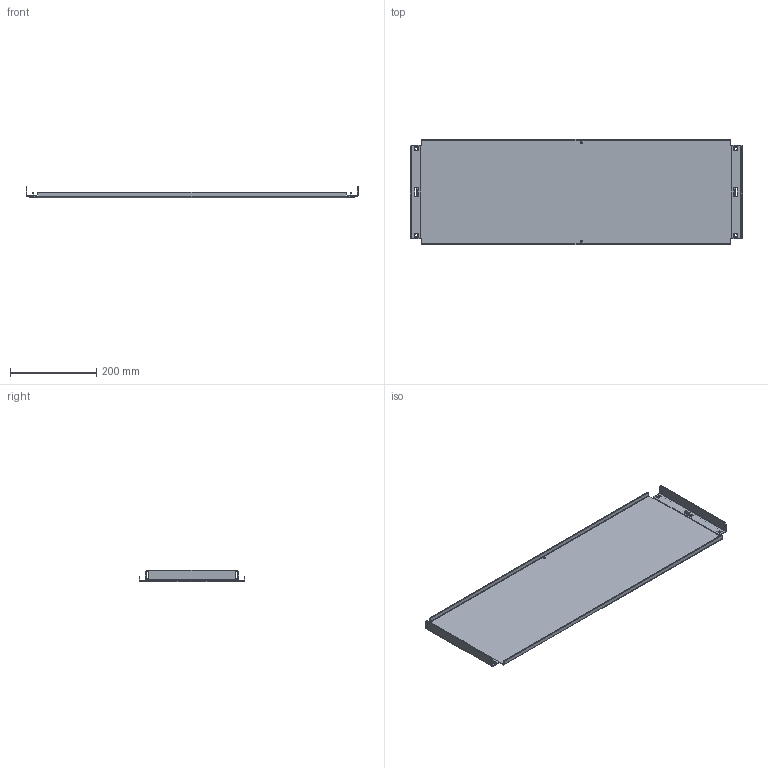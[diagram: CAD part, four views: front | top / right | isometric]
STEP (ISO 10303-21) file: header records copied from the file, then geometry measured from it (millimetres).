
FILE_DESCRIPTION(('STEP AP203'), '1');
FILE_NAME('Ïàíåëü ìîíòàæíàÿ ãëóõàÿ Â250õØ800 ìì OptiBox M 419105 ÊÝÀÇ', '', ('UNSPECIFIED'), ('UNSPECIFIED'), 'C3D Converter', 'C3D Toolkit', '');
FILE_SCHEMA(('CONFIG_CONTROL_DESIGN'));
Length unit declared in the file: millimetre
Bounding box: 769.2 x 245 x 26 mm (x, y, z)
Volume: 428715 mm3; surface area: 436146.6 mm2
Topology: 3 solids, 3 shells, 152 faces, 398 edges, 252 vertices
Faces by surface type: plane 118, cylinder 34
Full cylindrical faces by diameter (mm): 4.6 x2, 7.3 x4
Entity records: 5892 total; most frequent: CARTESIAN_POINT 797, ORIENTED_EDGE 784, DIRECTION 766, EDGE_CURVE 392, LINE 324, VECTOR 324, VERTEX_POINT 252, AXIS2_PLACEMENT_3D 221
